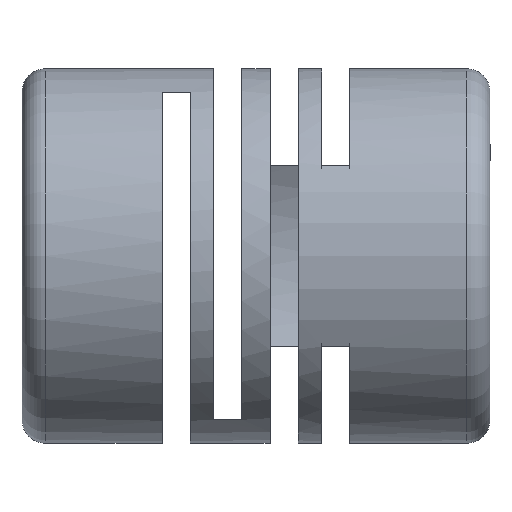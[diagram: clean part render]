
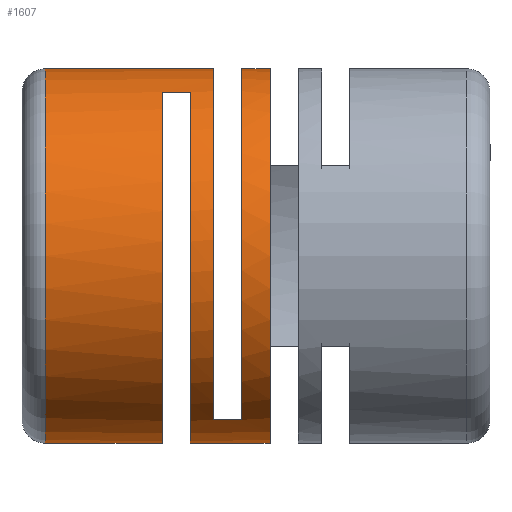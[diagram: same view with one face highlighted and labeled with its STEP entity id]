
A CAD part, front view. The second image highlights one B-rep face of the part: STEP entity #1607.
In plain terms, the highlighted cylindrical face has radius 4 mm (diameter 8 mm), a partial arc.
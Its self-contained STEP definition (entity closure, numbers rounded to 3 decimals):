
#1478 = VERTEX_POINT ( 'NONE', #5259 ) ;
#1480 = ORIENTED_EDGE ( 'NONE', *, *, #1481, .T. ) ;
#1481 = EDGE_CURVE ( 'NONE', #1478, #1482, #5252, .T. ) ;
#1482 = VERTEX_POINT ( 'NONE', #5557 ) ;
#1484 = ORIENTED_EDGE ( 'NONE', *, *, #1485, .T. ) ;
#1485 = EDGE_CURVE ( 'NONE', #1482, #1614, #5548, .T. ) ;
#1494 = ORIENTED_EDGE ( 'NONE', *, *, #1496, .T. ) ;
#1496 = EDGE_CURVE ( 'NONE', #1622, #1623, #5321, .T. ) ;
#1498 = ORIENTED_EDGE ( 'NONE', *, *, #1499, .T. ) ;
#1499 = EDGE_CURVE ( 'NONE', #1623, #1500, #5323, .T. ) ;
#1500 = VERTEX_POINT ( 'NONE', #6234 ) ;
#1501 = ORIENTED_EDGE ( 'NONE', *, *, #1502, .T. ) ;
#1502 = EDGE_CURVE ( 'NONE', #1500, #1503, #6237, .T. ) ;
#1503 = VERTEX_POINT ( 'NONE', #6223 ) ;
#1506 = ORIENTED_EDGE ( 'NONE', *, *, #1507, .T. ) ;
#1507 = EDGE_CURVE ( 'NONE', #1503, #1508, #6207, .T. ) ;
#1508 = VERTEX_POINT ( 'NONE', #6201 ) ;
#1509 = ORIENTED_EDGE ( 'NONE', *, *, #1646, .T. ) ;
#1607 = ADVANCED_FACE ( 'NONE', ( #6590 ), #6589, .T. ) ;
#1608 = EDGE_LOOP ( 'NONE', ( #1611, #1616, #1619, #1638, #1620, #1494, #1498, #1501, #1506, #1509, #1480, #1484 ) ) ;
#1611 = ORIENTED_EDGE ( 'NONE', *, *, #1613, .T. ) ;
#1613 = EDGE_CURVE ( 'NONE', #1614, #1615, #6583, .T. ) ;
#1614 = VERTEX_POINT ( 'NONE', #6575 ) ;
#1615 = VERTEX_POINT ( 'NONE', #6574 ) ;
#1616 = ORIENTED_EDGE ( 'NONE', *, *, #1617, .T. ) ;
#1617 = EDGE_CURVE ( 'NONE', #1615, #1618, #6573, .T. ) ;
#1618 = VERTEX_POINT ( 'NONE', #6568 ) ;
#1619 = ORIENTED_EDGE ( 'NONE', *, *, #1636, .T. ) ;
#1620 = ORIENTED_EDGE ( 'NONE', *, *, #1621, .T. ) ;
#1621 = EDGE_CURVE ( 'NONE', #1640, #1622, #6567, .T. ) ;
#1622 = VERTEX_POINT ( 'NONE', #6563 ) ;
#1623 = VERTEX_POINT ( 'NONE', #6562 ) ;
#1636 = EDGE_CURVE ( 'NONE', #1618, #1637, #6753, .T. ) ;
#1637 = VERTEX_POINT ( 'NONE', #6749 ) ;
#1638 = ORIENTED_EDGE ( 'NONE', *, *, #1639, .T. ) ;
#1639 = EDGE_CURVE ( 'NONE', #1637, #1640, #6748, .T. ) ;
#1640 = VERTEX_POINT ( 'NONE', #6743 ) ;
#1646 = EDGE_CURVE ( 'NONE', #1508, #1478, #6703, .T. ) ;
#5252 = LINE ( 'NONE', #5562, #5561 ) ;
#5259 = CARTESIAN_POINT ( 'NONE',  ( -0.9, 0., 4. ) ) ;
#5307 = DIRECTION ( 'NONE',  ( -1., 0., 0. ) ) ;
#5309 = VECTOR ( 'NONE', #5307, 1000. ) ;
#5310 = CARTESIAN_POINT ( 'NONE',  ( 5., 0., 4. ) ) ;
#5315 = DIRECTION ( 'NONE',  ( 0., 0., 1. ) ) ;
#5317 = DIRECTION ( 'NONE',  ( -1., 0., 0. ) ) ;
#5319 = AXIS2_PLACEMENT_3D ( 'NONE', #5359, #5317, #5315 ) ;
#5321 = CIRCLE ( 'NONE', #5319, 4. ) ;
#5323 = LINE ( 'NONE', #5310, #5309 ) ;
#5359 = CARTESIAN_POINT ( 'NONE',  ( 0.3, 0., 0. ) ) ;
#5541 = DIRECTION ( 'NONE',  ( 0., 0., 1. ) ) ;
#5543 = DIRECTION ( 'NONE',  ( 1., 0., 0. ) ) ;
#5545 = CARTESIAN_POINT ( 'NONE',  ( -4.5, 0., 0. ) ) ;
#5547 = AXIS2_PLACEMENT_3D ( 'NONE', #5545, #5543, #5541 ) ;
#5548 = CIRCLE ( 'NONE', #5547, 4. ) ;
#5557 = CARTESIAN_POINT ( 'NONE',  ( -4.5, 0., 4. ) ) ;
#5560 = DIRECTION ( 'NONE',  ( -1., 0., 0. ) ) ;
#5561 = VECTOR ( 'NONE', #5560, 1000. ) ;
#5562 = CARTESIAN_POINT ( 'NONE',  ( 5., 0., 4. ) ) ;
#6201 = CARTESIAN_POINT ( 'NONE',  ( -0.9, -1.936, -3.5 ) ) ;
#6202 = DIRECTION ( 'NONE',  ( -1., 0., 0. ) ) ;
#6204 = VECTOR ( 'NONE', #6202, 1000. ) ;
#6206 = CARTESIAN_POINT ( 'NONE',  ( 5., -1.936, -3.5 ) ) ;
#6207 = LINE ( 'NONE', #6206, #6204 ) ;
#6223 = CARTESIAN_POINT ( 'NONE',  ( -0.3, -1.936, -3.5 ) ) ;
#6225 = DIRECTION ( 'NONE',  ( 0., 0., 1. ) ) ;
#6229 = DIRECTION ( 'NONE',  ( 1., 0., 0. ) ) ;
#6231 = CARTESIAN_POINT ( 'NONE',  ( -0.3, 0., 0. ) ) ;
#6233 = AXIS2_PLACEMENT_3D ( 'NONE', #6231, #6229, #6225 ) ;
#6234 = CARTESIAN_POINT ( 'NONE',  ( -0.3, 0., 4. ) ) ;
#6237 = CIRCLE ( 'NONE', #6233, 4. ) ;
#6562 = CARTESIAN_POINT ( 'NONE',  ( 0.3, 0., 4. ) ) ;
#6563 = CARTESIAN_POINT ( 'NONE',  ( 0.3, 0., -4. ) ) ;
#6564 = DIRECTION ( 'NONE',  ( 1., 0., 0. ) ) ;
#6565 = VECTOR ( 'NONE', #6564, 1000. ) ;
#6566 = CARTESIAN_POINT ( 'NONE',  ( 5., 0., -4. ) ) ;
#6567 = LINE ( 'NONE', #6566, #6565 ) ;
#6568 = CARTESIAN_POINT ( 'NONE',  ( -2., -1.936, 3.5 ) ) ;
#6569 = DIRECTION ( 'NONE',  ( 0., 0., 1. ) ) ;
#6570 = DIRECTION ( 'NONE',  ( -1., 0., 0. ) ) ;
#6571 = CARTESIAN_POINT ( 'NONE',  ( -2., 0., 0. ) ) ;
#6572 = AXIS2_PLACEMENT_3D ( 'NONE', #6571, #6570, #6569 ) ;
#6573 = CIRCLE ( 'NONE', #6572, 4. ) ;
#6574 = CARTESIAN_POINT ( 'NONE',  ( -2., 0., -4. ) ) ;
#6575 = CARTESIAN_POINT ( 'NONE',  ( -4.5, 0., -4. ) ) ;
#6576 = DIRECTION ( 'NONE',  ( 1., 0., 0. ) ) ;
#6577 = VECTOR ( 'NONE', #6576, 1000. ) ;
#6578 = CARTESIAN_POINT ( 'NONE',  ( 5., 0., -4. ) ) ;
#6583 = LINE ( 'NONE', #6578, #6577 ) ;
#6585 = DIRECTION ( 'NONE',  ( 0., 0., 1. ) ) ;
#6586 = DIRECTION ( 'NONE',  ( -1., 0., 0. ) ) ;
#6587 = CARTESIAN_POINT ( 'NONE',  ( 5., 0., 0. ) ) ;
#6588 = AXIS2_PLACEMENT_3D ( 'NONE', #6587, #6586, #6585 ) ;
#6589 = CYLINDRICAL_SURFACE ( 'NONE', #6588, 4. ) ;
#6590 = FACE_OUTER_BOUND ( 'NONE', #1608, .T. ) ;
#6699 = DIRECTION ( 'NONE',  ( 0., 0., 1. ) ) ;
#6700 = DIRECTION ( 'NONE',  ( -1., 0., 0. ) ) ;
#6701 = CARTESIAN_POINT ( 'NONE',  ( -0.9, 0., 0. ) ) ;
#6702 = AXIS2_PLACEMENT_3D ( 'NONE', #6701, #6700, #6699 ) ;
#6703 = CIRCLE ( 'NONE', #6702, 4. ) ;
#6743 = CARTESIAN_POINT ( 'NONE',  ( -1.4, 0., -4. ) ) ;
#6744 = DIRECTION ( 'NONE',  ( 0., 0., 1. ) ) ;
#6745 = DIRECTION ( 'NONE',  ( 1., 0., 0. ) ) ;
#6746 = CARTESIAN_POINT ( 'NONE',  ( -1.4, 0., 0. ) ) ;
#6747 = AXIS2_PLACEMENT_3D ( 'NONE', #6746, #6745, #6744 ) ;
#6748 = CIRCLE ( 'NONE', #6747, 4. ) ;
#6749 = CARTESIAN_POINT ( 'NONE',  ( -1.4, -1.936, 3.5 ) ) ;
#6750 = DIRECTION ( 'NONE',  ( 1., 0., 0. ) ) ;
#6751 = VECTOR ( 'NONE', #6750, 1000. ) ;
#6752 = CARTESIAN_POINT ( 'NONE',  ( 5., -1.936, 3.5 ) ) ;
#6753 = LINE ( 'NONE', #6752, #6751 ) ;
